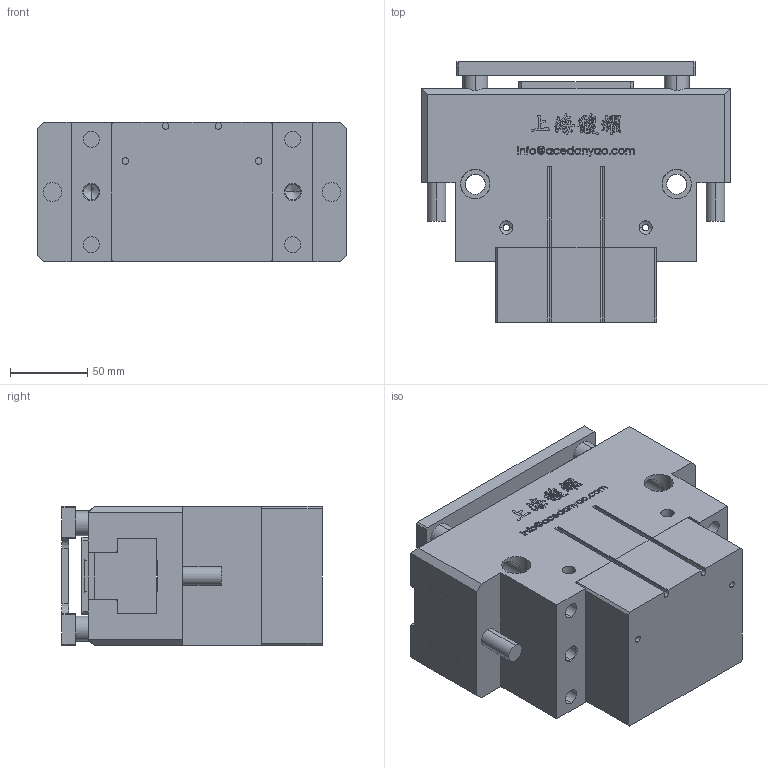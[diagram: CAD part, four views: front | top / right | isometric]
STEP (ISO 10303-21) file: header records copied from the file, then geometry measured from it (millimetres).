
FILE_DESCRIPTION (( 'STEP AP203' ), '1' );
FILE_NAME ('OPP2-200-C2-P-MC&MA-原始檔-組合-W106.04.19.STEP', '2017-04-19T05:51:42', ( 'DanyaoCAD' ), ( '' ), 'SwSTEP 2.0', 'SolidWorks 2016', '' );
FILE_SCHEMA (( 'CONFIG_CONTROL_DESIGN' ));
Length unit declared in the file: millimetre
Products named in the file (6): Fondello; Corpo; Griffa; Piattello; Coperchio; OPP2-200-C2-P-MC&MA-原始檔-組合-W106.04.19
Assembly tree (6 placements, depth 2):
  OPP2-200-C2-P-MC&MA-原始檔-組合-W106.04.19
    Fondello
    Corpo
    Griffa  x2
    Piattello
    Coperchio
Bounding box: 200 x 168 x 90 mm (x, y, z)
Volume: 2098821.4 mm3; surface area: 272993.7 mm2
Topology: 6 solids, 6 shells, 1119 faces, 3086 edges, 2030 vertices
Faces by surface type: bspline 640, plane 319, cylinder 120, cone 40
Entity records: 51895 total; most frequent: CARTESIAN_POINT 27937, ORIENTED_EDGE 5954, EDGE_CURVE 2977, DIRECTION 2797, VERTEX_POINT 1970, VECTOR 1433, LINE 1433, B_SPLINE_CURVE_WITH_KNOTS 1304
